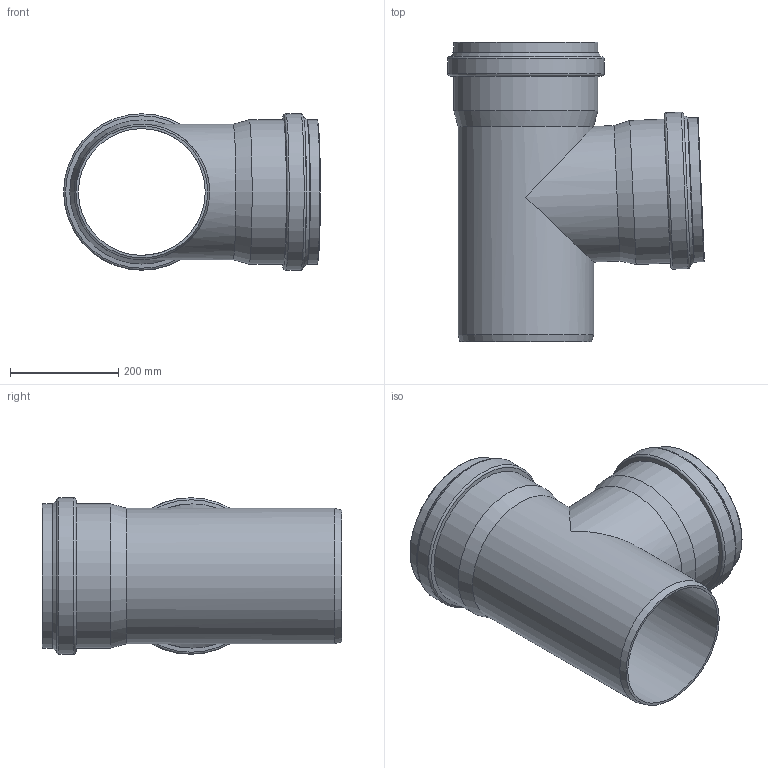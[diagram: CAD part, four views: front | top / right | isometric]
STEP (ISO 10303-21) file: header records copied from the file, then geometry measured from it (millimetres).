
FILE_DESCRIPTION(/* description */ (''),/* implementation_level */ '2;1');
FILE_NAME(/* name */ '774770z.stp',/* time_stamp */ '2026-01-21T10:22:43+01:00',/* author */ ('corinna'),/* organization */ (''),/* preprocessor_version */ 'ST-DEVELOPER v20',/* originating_system */ 'Autodesk Inventor 2024',/* authorisation */ '');
FILE_SCHEMA (('AUTOMOTIVE_DESIGN { 1 0 10303 214 3 1 1 }'));
Length unit declared in the file: millimetre
Products named in the file (1): 774770z
Bounding box: 474.36 x 553.4 x 289 mm (x, y, z)
Volume: 4558032.3 mm3; surface area: 1211051 mm2
Topology: 1 solids, 1 shells, 70 faces, 193 edges, 126 vertices
Faces by surface type: torus 26, cone 21, cylinder 18, plane 5
Full cylindrical faces by diameter (mm): 234.3 x2, 250.3 x2, 251.7 x2, 252.1 x4, 266.1 x2, 266.5 x2, 274.6 x2, 289 x2
Entity records: 2377 total; most frequent: DIRECTION 484, CARTESIAN_POINT 396, ORIENTED_EDGE 386, AXIS2_PLACEMENT_3D 222, EDGE_CURVE 193, CIRCLE 143, VERTEX_POINT 126, EDGE_LOOP 75
